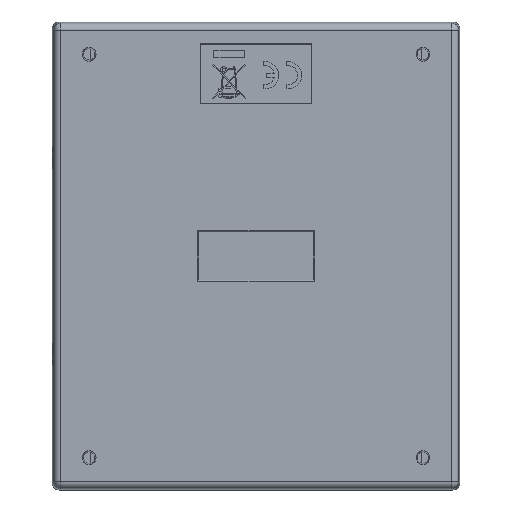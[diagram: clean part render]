
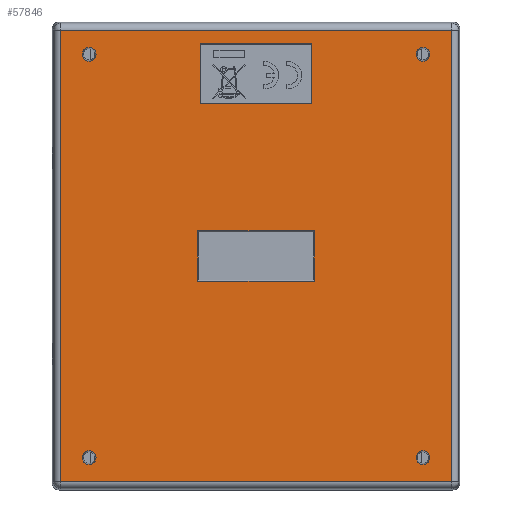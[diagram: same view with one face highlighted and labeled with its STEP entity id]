
A CAD part, front view. The second image highlights one B-rep face of the part: STEP entity #57846.
In plain terms, the highlighted planar face has unit normal (0, -1, 0) as drawn and (0, 0, -1) by its records, which use the part's own axes.
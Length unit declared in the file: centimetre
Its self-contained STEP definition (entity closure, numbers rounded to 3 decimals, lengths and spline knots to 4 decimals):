
#16499=CIRCLE('',#60376,0.1249);
#16500=CIRCLE('',#60377,0.1249);
#16501=CIRCLE('',#60378,0.1249);
#16502=CIRCLE('',#60379,0.1249);
#17913=VERTEX_POINT('',#74418);
#17914=VERTEX_POINT('',#74420);
#17916=VERTEX_POINT('',#74426);
#17918=VERTEX_POINT('',#74432);
#18013=VERTEX_POINT('',#74778);
#18014=VERTEX_POINT('',#74780);
#18016=VERTEX_POINT('',#74786);
#18018=VERTEX_POINT('',#74792);
#18139=VERTEX_POINT('',#75864);
#18140=VERTEX_POINT('',#75866);
#18141=VERTEX_POINT('',#75868);
#18142=VERTEX_POINT('',#75870);
#18143=VERTEX_POINT('',#75872);
#18144=VERTEX_POINT('',#75873);
#18145=VERTEX_POINT('',#75875);
#18146=VERTEX_POINT('',#75877);
#22188=VECTOR('',#63904,1.);
#22191=VECTOR('',#63908,1.);
#22194=VECTOR('',#63912,1.);
#22197=VECTOR('',#63916,1.);
#22327=VECTOR('',#64110,1.);
#22330=VECTOR('',#64114,1.);
#22333=VECTOR('',#64118,1.);
#22336=VECTOR('',#64122,1.);
#22497=VECTOR('',#64355,1.);
#22498=VECTOR('',#64356,1.);
#22499=VECTOR('',#64357,1.);
#22500=VECTOR('',#64358,1.);
#27290=LINE('',#74419,#22188);
#27293=LINE('',#74425,#22191);
#27296=LINE('',#74431,#22194);
#27299=LINE('',#74436,#22197);
#27429=LINE('',#74779,#22327);
#27432=LINE('',#74785,#22330);
#27435=LINE('',#74791,#22333);
#27438=LINE('',#74796,#22336);
#27599=LINE('',#75871,#22497);
#27600=LINE('',#75874,#22498);
#27601=LINE('',#75876,#22499);
#27602=LINE('',#75878,#22500);
#32410=EDGE_CURVE('',#17914,#17913,#27290,.T.);
#32413=EDGE_CURVE('',#17916,#17914,#27293,.T.);
#32416=EDGE_CURVE('',#17918,#17916,#27296,.T.);
#32419=EDGE_CURVE('',#17913,#17918,#27299,.T.);
#32559=EDGE_CURVE('',#18014,#18013,#27429,.F.);
#32562=EDGE_CURVE('',#18016,#18014,#27432,.F.);
#32565=EDGE_CURVE('',#18018,#18016,#27435,.F.);
#32568=EDGE_CURVE('',#18013,#18018,#27438,.F.);
#32749=EDGE_CURVE('',#18139,#18139,#16499,.F.);
#32750=EDGE_CURVE('',#18140,#18140,#16500,.F.);
#32751=EDGE_CURVE('',#18141,#18141,#16501,.F.);
#32752=EDGE_CURVE('',#18142,#18142,#16502,.F.);
#32753=EDGE_CURVE('',#18143,#18144,#27599,.T.);
#32754=EDGE_CURVE('',#18145,#18143,#27600,.T.);
#32755=EDGE_CURVE('',#18146,#18145,#27601,.T.);
#32756=EDGE_CURVE('',#18144,#18146,#27602,.T.);
#39755=ORIENTED_EDGE('',*,*,#32410,.T.);
#39756=ORIENTED_EDGE('',*,*,#32419,.T.);
#39757=ORIENTED_EDGE('',*,*,#32416,.T.);
#39758=ORIENTED_EDGE('',*,*,#32413,.T.);
#39759=ORIENTED_EDGE('',*,*,#32749,.T.);
#39760=ORIENTED_EDGE('',*,*,#32750,.T.);
#39761=ORIENTED_EDGE('',*,*,#32751,.T.);
#39762=ORIENTED_EDGE('',*,*,#32752,.T.);
#39763=ORIENTED_EDGE('',*,*,#32753,.F.);
#39764=ORIENTED_EDGE('',*,*,#32754,.F.);
#39765=ORIENTED_EDGE('',*,*,#32755,.F.);
#39766=ORIENTED_EDGE('',*,*,#32756,.F.);
#39767=ORIENTED_EDGE('',*,*,#32559,.T.);
#39768=ORIENTED_EDGE('',*,*,#32568,.T.);
#39769=ORIENTED_EDGE('',*,*,#32565,.T.);
#39770=ORIENTED_EDGE('',*,*,#32562,.T.);
#52402=EDGE_LOOP('',(#39755,#39756,#39757,#39758));
#52403=EDGE_LOOP('',(#39759));
#52404=EDGE_LOOP('',(#39760));
#52405=EDGE_LOOP('',(#39761));
#52406=EDGE_LOOP('',(#39762));
#52407=EDGE_LOOP('',(#39763,#39764,#39765,#39766));
#52408=EDGE_LOOP('',(#39767,#39768,#39769,#39770));
#55132=FACE_BOUND('',#52402,.T.);
#55133=FACE_BOUND('',#52403,.T.);
#55134=FACE_BOUND('',#52404,.T.);
#55135=FACE_BOUND('',#52405,.T.);
#55136=FACE_BOUND('',#52406,.T.);
#55137=FACE_BOUND('',#52407,.T.);
#55138=FACE_BOUND('',#52408,.T.);
#57846=ADVANCED_FACE('',(#55132,#55133,#55134,#55135,#55136,#55137,#55138),
#94373,.F.);
#60375=AXIS2_PLACEMENT_3D('',#75862,#64346,$);
#60376=AXIS2_PLACEMENT_3D('',#75863,#64347,#64348);
#60377=AXIS2_PLACEMENT_3D('',#75865,#64349,#64350);
#60378=AXIS2_PLACEMENT_3D('',#75867,#64351,#64352);
#60379=AXIS2_PLACEMENT_3D('',#75869,#64353,#64354);
#63904=DIRECTION('',(1.,0.,0.));
#63908=DIRECTION('',(0.,-1.,0.));
#63912=DIRECTION('',(-1.,0.,0.));
#63916=DIRECTION('',(0.,1.,0.));
#64110=DIRECTION('',(-1.,0.,0.));
#64114=DIRECTION('',(0.,1.,0.));
#64118=DIRECTION('',(1.,0.,0.));
#64122=DIRECTION('',(0.,-1.,0.));
#64346=DIRECTION('',(0.,0.,1.));
#64347=DIRECTION('',(0.,0.,-1.));
#64348=DIRECTION('',(-0.125,0.,0.));
#64349=DIRECTION('',(0.,0.,-1.));
#64350=DIRECTION('',(-0.125,0.,0.));
#64351=DIRECTION('',(0.,0.,-1.));
#64352=DIRECTION('',(-0.125,0.,0.));
#64353=DIRECTION('',(0.,0.,-1.));
#64354=DIRECTION('',(-0.125,0.,0.));
#64355=DIRECTION('',(-1.,0.,0.));
#64356=DIRECTION('',(0.,1.,0.));
#64357=DIRECTION('',(1.,0.,0.));
#64358=DIRECTION('',(0.,-1.,0.));
#74418=CARTESIAN_POINT('',(1.0668,-0.4572,-0.0032));
#74419=CARTESIAN_POINT('',(0.5334,-0.4572,-0.0032));
#74420=CARTESIAN_POINT('',(-1.0668,-0.4572,-0.0032));
#74425=CARTESIAN_POINT('',(-1.0668,-0.2286,-0.0032));
#74426=CARTESIAN_POINT('',(-1.0668,0.4572,-0.0032));
#74431=CARTESIAN_POINT('',(-0.5334,0.4572,-0.0032));
#74432=CARTESIAN_POINT('',(1.0668,0.4572,-0.0032));
#74436=CARTESIAN_POINT('',(1.0668,0.2286,-0.0032));
#74778=CARTESIAN_POINT('',(1.0174,-3.8721,-0.0032));
#74779=CARTESIAN_POINT('',(0.,-3.8721,-0.0032));
#74780=CARTESIAN_POINT('',(-1.0174,-3.8721,-0.0032));
#74785=CARTESIAN_POINT('',(-1.0174,-0.8327,-0.0032));
#74786=CARTESIAN_POINT('',(-1.0174,-2.7898,-0.0032));
#74791=CARTESIAN_POINT('',(0.,-2.7898,-0.0032));
#74792=CARTESIAN_POINT('',(1.0174,-2.7898,-0.0032));
#74796=CARTESIAN_POINT('',(1.0174,-0.8327,-0.0032));
#75862=CARTESIAN_POINT('',(0.,0.,-0.0032));
#75863=CARTESIAN_POINT('',(3.048,3.683,-0.0032));
#75864=CARTESIAN_POINT('',(3.1729,3.683,-0.0032));
#75865=CARTESIAN_POINT('',(3.048,-3.683,-0.0032));
#75866=CARTESIAN_POINT('',(3.1729,-3.683,-0.0032));
#75867=CARTESIAN_POINT('',(-3.048,-3.683,-0.0032));
#75868=CARTESIAN_POINT('',(-2.9231,-3.683,-0.0032));
#75869=CARTESIAN_POINT('',(-3.048,3.683,-0.0032));
#75870=CARTESIAN_POINT('',(-2.9231,3.683,-0.0032));
#75871=CARTESIAN_POINT('',(0.,4.1247,-0.0032));
#75872=CARTESIAN_POINT('',(3.5722,4.1247,-0.0032));
#75873=CARTESIAN_POINT('',(-3.5722,4.1247,-0.0032));
#75874=CARTESIAN_POINT('',(3.5722,0.,-0.0032));
#75875=CARTESIAN_POINT('',(3.5722,-4.1247,-0.0032));
#75876=CARTESIAN_POINT('',(0.,-4.1247,-0.0032));
#75877=CARTESIAN_POINT('',(-3.5722,-4.1247,-0.0032));
#75878=CARTESIAN_POINT('',(-3.5722,0.,-0.0032));
#94373=PLANE('',#60375);
